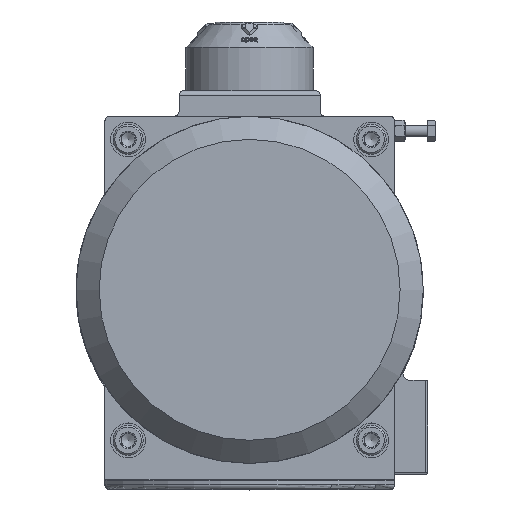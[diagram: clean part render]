
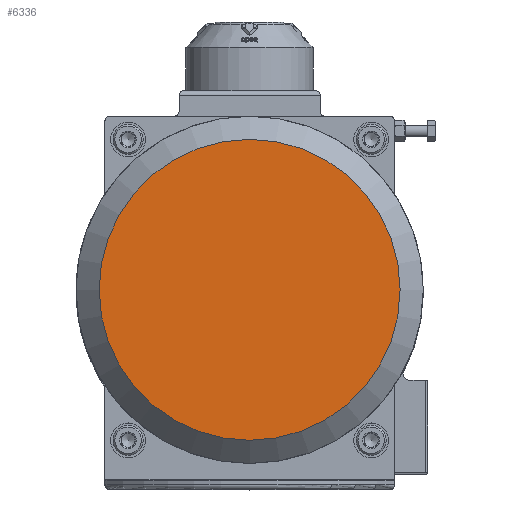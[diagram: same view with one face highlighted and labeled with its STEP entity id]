
A CAD part, top view. The second image highlights one B-rep face of the part: STEP entity #6336.
In plain terms, the highlighted planar face has unit normal (0, 0, 1).
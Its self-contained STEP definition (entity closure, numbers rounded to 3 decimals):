
#6336=ADVANCED_FACE('',(#14002),#14004,.T.);
#14002=FACE_BOUND('',#14003,.T.);
#14003=EDGE_LOOP('',(#21060));
#14004=PLANE('',#14005);
#14005=AXIS2_PLACEMENT_3D('',#14006,#14007,#14008);
#14006=CARTESIAN_POINT('',(0.,0.,195.));
#14007=DIRECTION('',(0.,0.,1.));
#14008=DIRECTION('',(1.,0.,0.));
#21060=ORIENTED_EDGE('',*,*,#24453,.T.);
#24453=EDGE_CURVE('',#28257,#28257,#28258,.T.);
#28257=VERTEX_POINT('',#47723);
#28258=CIRCLE('',#47724,65.);
#47723=CARTESIAN_POINT('',(65.,0.,195.));
#47724=AXIS2_PLACEMENT_3D('',#47725,#47726,#47727);
#47725=CARTESIAN_POINT('',(0.,0.,195.));
#47726=DIRECTION('',(0.,0.,1.));
#47727=DIRECTION('',(1.,0.,0.));
